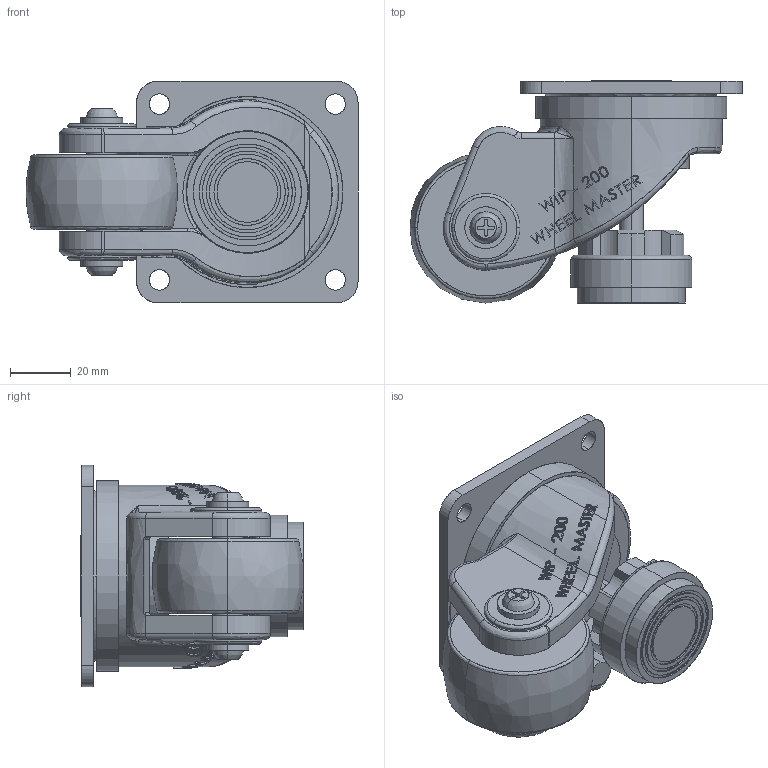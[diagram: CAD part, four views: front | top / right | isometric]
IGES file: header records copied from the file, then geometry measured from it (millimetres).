
Start section: SolidWorks IGES file using analytic representation for surfaces
Bounding box: 109.5 x 73.28 x 73 mm (x, y, z)
Surface area: 63515.6 mm2 (no closed solid volume)
Topology: 0 solids, 0 shells, 711 faces, 10826 edges, 10822 vertices
Faces by surface type: bspline 506, revolution 205
